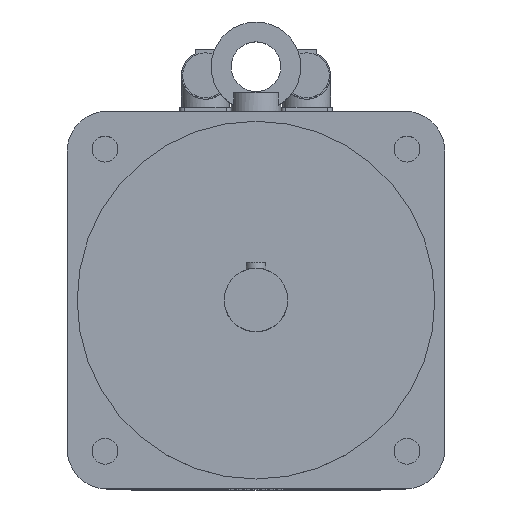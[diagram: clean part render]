
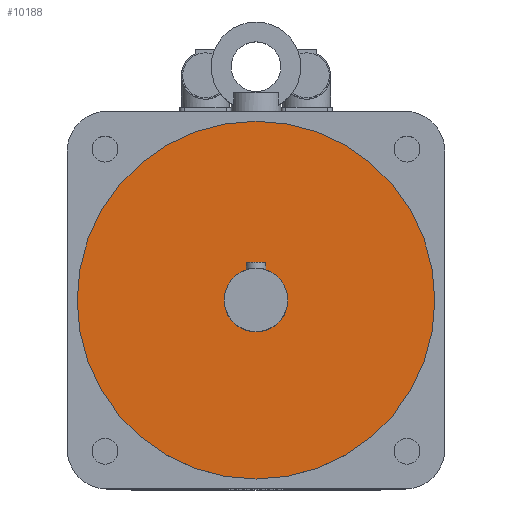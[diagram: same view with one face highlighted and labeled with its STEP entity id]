
A CAD part, top view. The second image highlights one B-rep face of the part: STEP entity #10188.
In plain terms, the highlighted planar face has unit normal (0, 0, 1).
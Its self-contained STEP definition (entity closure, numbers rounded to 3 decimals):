
#208=FACE_BOUND('',#973,.T.);
#290=FACE_OUTER_BOUND('',#972,.T.);
#972=EDGE_LOOP('',(#7169));
#973=EDGE_LOOP('',(#7170));
#1611=CIRCLE('',#10835,16.);
#1612=CIRCLE('',#10837,90.);
#4590=VERTEX_POINT('',#15520);
#4591=VERTEX_POINT('',#15523);
#5600=EDGE_CURVE('',#4590,#4590,#1611,.T.);
#5601=EDGE_CURVE('',#4591,#4591,#1612,.T.);
#7169=ORIENTED_EDGE('',*,*,#5601,.F.);
#7170=ORIENTED_EDGE('',*,*,#5600,.T.);
#9671=PLANE('',#10836);
#10188=ADVANCED_FACE('',(#290,#208),#9671,.T.);
#10835=AXIS2_PLACEMENT_3D('',#15521,#12180,#12181);
#10836=AXIS2_PLACEMENT_3D('',#15522,#12182,#12183);
#10837=AXIS2_PLACEMENT_3D('',#15524,#12184,#12185);
#12180=DIRECTION('center_axis',(0.,0.,-1.));
#12181=DIRECTION('ref_axis',(1.,0.,0.));
#12182=DIRECTION('center_axis',(0.,0.,1.));
#12183=DIRECTION('ref_axis',(1.,0.,0.));
#12184=DIRECTION('center_axis',(0.,0.,-1.));
#12185=DIRECTION('ref_axis',(1.,0.,0.));
#15520=CARTESIAN_POINT('',(0.,16.,258.));
#15521=CARTESIAN_POINT('Origin',(0.,0.,258.));
#15522=CARTESIAN_POINT('Origin',(0.,90.,258.));
#15523=CARTESIAN_POINT('',(0.,90.,258.));
#15524=CARTESIAN_POINT('Origin',(0.,0.,258.));
